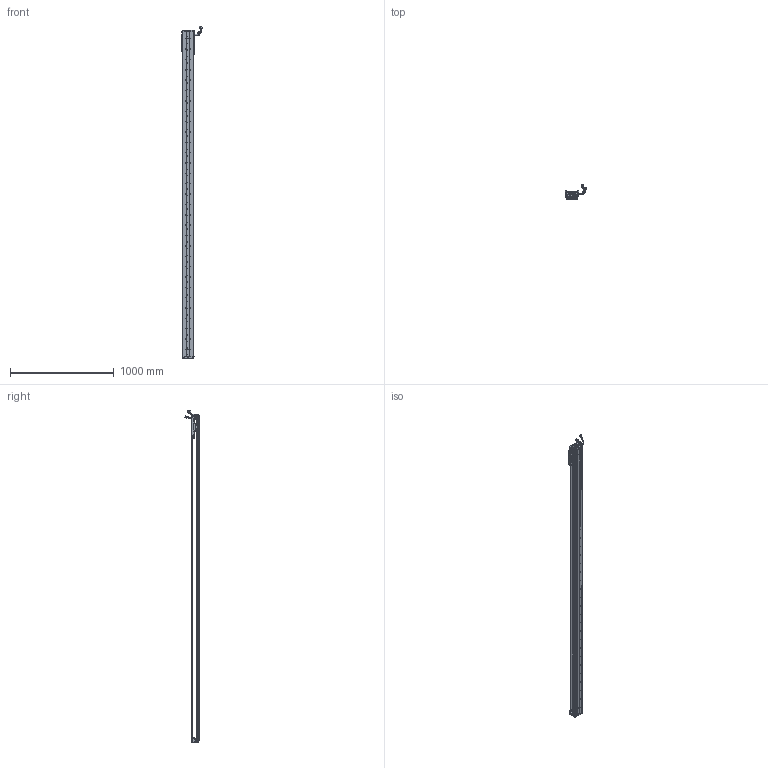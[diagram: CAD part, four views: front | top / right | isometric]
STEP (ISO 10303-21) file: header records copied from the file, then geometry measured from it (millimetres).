
FILE_DESCRIPTION (( 'STEP AP203' ), '1' );
FILE_NAME ('Z2-RY100D-1-L500-B-K.SLDASM_2900.step', '2021-05-17T02:38:40', ( '盈信电脑' ), ( '东莞市道滘镇水果街19号' ), 'SwSTEP 2.0', 'SolidWorks 2016', '' );
FILE_SCHEMA (( 'CONFIG_CONTROL_DESIGN' ));
Length unit declared in the file: millimetre
Products named in the file (36): 140雄赽晤鎢ん堤盄; SCALE-Part-1; 100-Z-臏賑輸盄裔(21遴); Z-RY100D覜茼んえ; Z-RY100D詩湍奻揤裔; 080黍杅芛假蚾釱21遴; HARNESS; SCREW-M1.7-1; SHIELDPLATE; Z2-RY100-L500詩湍90mm遵_2900; Z-RY100D詩湍狟揤裔; SCREW-M1.6-1; PSLH080_PSLF2; COVER; Z2-RY100D-500-倰第菁釱_2900; LABEL-Part-1; 140蚥薯蝶輸; HARNESS-Part-2; PBU_SHEET; SEAL; 覜茼ん672; Z-100詩湍傷裔啣; SCALE; SCREW-M1.6-2; Z2-RY100D-1-L500-B-K.SLDASM_2900; 榋妏寠巭燃_暯_M2_2; COVER-Part-1; Z2-RY100铝滑块（21款）; SCREW-M1.6-3; SEAL-Part-1; LABEL; HARNESS-Part-1; SCREW-M1.6; HOLDER0; SCREW-M1.7; SCALE-Part-2
Assembly tree (43 placements, depth 4):
  Z2-RY100D-1-L500-B-K.SLDASM_2900
    Z2-RY100D-500-倰第菁釱_2900
    Z2-RY100铝滑块（21款）
    PSLH080_PSLF2
      SCALE
        SCALE-Part-1
        SCALE-Part-2
      HARNESS
        HARNESS-Part-1
        HARNESS-Part-2
      LABEL
        LABEL-Part-1
      COVER
        COVER-Part-1
      SEAL
        SEAL-Part-1
      榋妏寠巭燃_暯_M2_2
      SHIELDPLATE
      SCREW-M1.7
      SCREW-M1.7-1
      PBU_SHEET
      SCREW-M1.6
      SCREW-M1.6-1
      SCREW-M1.6-2
      SCREW-M1.6-3
      HOLDER0
    080黍杅芛假蚾釱21遴
    Z-100詩湍傷裔啣  x2
    140蚥薯蝶輸  x2
    覜茼ん672  x3
    Z-RY100D覜茼んえ  x3
    100-Z-臏賑輸盄裔(21遴)
    140雄赽晤鎢ん堤盄
    Z2-RY100-L500詩湍90mm遵_2900
    Z-RY100D詩湍狟揤裔  x2
    Z-RY100D詩湍奻揤裔  x2
Bounding box: 205.79 x 136.11 x 3205.43 mm (x, y, z)
Volume: 5650885.4 mm3; surface area: 2251149.9 mm2
Topology: 38 solids, 38 shells, 3124 faces, 8625 edges, 5524 vertices
Faces by surface type: cylinder 1582, plane 1202, cone 218, torus 69, bspline 53
Entity records: 92029 total; most frequent: CARTESIAN_POINT 19272, DIRECTION 14889, ORIENTED_EDGE 14146, EDGE_CURVE 7073, AXIS2_PLACEMENT_3D 5625, VERTEX_POINT 4592, VECTOR 3639, LINE 3639
